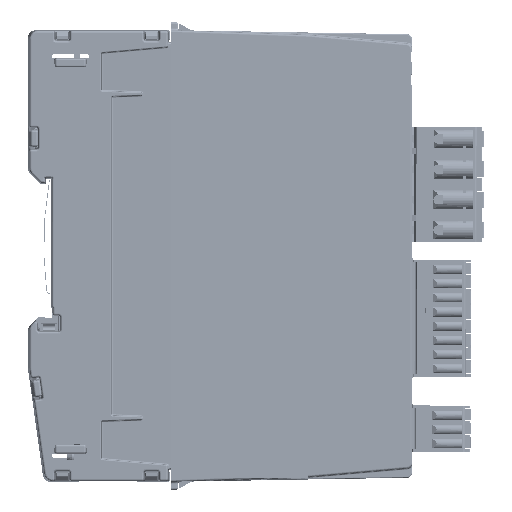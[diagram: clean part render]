
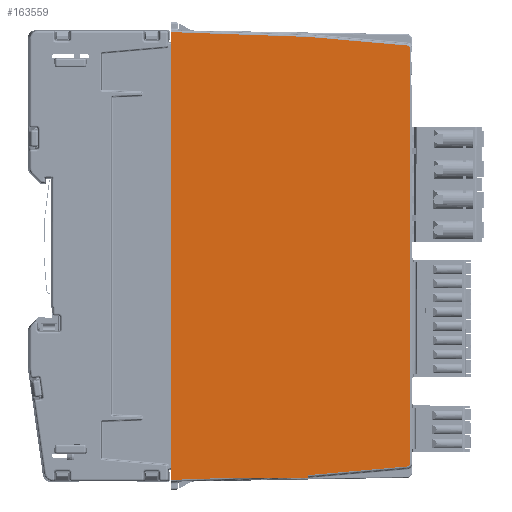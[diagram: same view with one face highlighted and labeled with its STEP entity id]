
A CAD part, left-side view. The second image highlights one B-rep face of the part: STEP entity #163559.
In plain terms, the highlighted planar face has unit normal (-1, -0.018, 0).
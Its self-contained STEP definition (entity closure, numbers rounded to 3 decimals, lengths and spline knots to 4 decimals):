
#15660=FACE_OUTER_BOUND('',#24726,.T.);
#24726=EDGE_LOOP('',(#137922,#137923,#137924,#137925,#137926,#137927,#137928,
#137929,#137930,#137931,#137932,#137933,#137934));
#40725=LINE('',#278950,#57212);
#40738=LINE('',#279022,#57225);
#40795=LINE('',#279250,#57282);
#41105=LINE('',#280697,#57592);
#41106=LINE('',#280699,#57593);
#41107=LINE('',#280703,#57594);
#41108=LINE('',#280707,#57595);
#41109=LINE('',#280709,#57596);
#41110=LINE('',#280711,#57597);
#41111=LINE('',#280713,#57598);
#41112=LINE('',#280714,#57599);
#57212=VECTOR('',#215309,0.3937);
#57225=VECTOR('',#215350,0.3937);
#57282=VECTOR('',#215545,39.3701);
#57592=VECTOR('',#216247,39.3701);
#57593=VECTOR('',#216248,39.3701);
#57594=VECTOR('',#216251,39.3701);
#57595=VECTOR('',#216254,39.3701);
#57596=VECTOR('',#216255,39.3701);
#57597=VECTOR('',#216256,39.3701);
#57598=VECTOR('',#216257,39.3701);
#57599=VECTOR('',#216258,39.3701);
#59947=ELLIPSE('',#176107,0.0315,0.0315);
#59948=ELLIPSE('',#176108,0.0315,0.0315);
#73093=VERTEX_POINT('',#278946);
#73095=VERTEX_POINT('',#278949);
#73117=VERTEX_POINT('',#279017);
#73175=VERTEX_POINT('',#279249);
#73504=VERTEX_POINT('',#280696);
#73505=VERTEX_POINT('',#280698);
#73506=VERTEX_POINT('',#280700);
#73507=VERTEX_POINT('',#280702);
#73508=VERTEX_POINT('',#280704);
#73509=VERTEX_POINT('',#280706);
#73510=VERTEX_POINT('',#280708);
#73511=VERTEX_POINT('',#280710);
#73512=VERTEX_POINT('',#280712);
#94589=EDGE_CURVE('',#73093,#73095,#40725,.T.);
#94616=EDGE_CURVE('',#73095,#73117,#40738,.T.);
#94709=EDGE_CURVE('',#73175,#73117,#40795,.T.);
#95179=EDGE_CURVE('',#73093,#73504,#41105,.T.);
#95180=EDGE_CURVE('',#73504,#73505,#41106,.T.);
#95181=EDGE_CURVE('',#73505,#73506,#59947,.T.);
#95182=EDGE_CURVE('',#73506,#73507,#41107,.T.);
#95183=EDGE_CURVE('',#73507,#73508,#59948,.T.);
#95184=EDGE_CURVE('',#73508,#73509,#41108,.T.);
#95185=EDGE_CURVE('',#73509,#73510,#41109,.T.);
#95186=EDGE_CURVE('',#73510,#73511,#41110,.T.);
#95187=EDGE_CURVE('',#73512,#73511,#41111,.T.);
#95188=EDGE_CURVE('',#73512,#73175,#41112,.T.);
#137922=ORIENTED_EDGE('',*,*,#95179,.T.);
#137923=ORIENTED_EDGE('',*,*,#95180,.T.);
#137924=ORIENTED_EDGE('',*,*,#95181,.T.);
#137925=ORIENTED_EDGE('',*,*,#95182,.T.);
#137926=ORIENTED_EDGE('',*,*,#95183,.T.);
#137927=ORIENTED_EDGE('',*,*,#95184,.T.);
#137928=ORIENTED_EDGE('',*,*,#95185,.T.);
#137929=ORIENTED_EDGE('',*,*,#95186,.T.);
#137930=ORIENTED_EDGE('',*,*,#95187,.F.);
#137931=ORIENTED_EDGE('',*,*,#95188,.T.);
#137932=ORIENTED_EDGE('',*,*,#94709,.T.);
#137933=ORIENTED_EDGE('',*,*,#94616,.F.);
#137934=ORIENTED_EDGE('',*,*,#94589,.F.);
#147144=PLANE('',#176106);
#163559=ADVANCED_FACE('',(#15660),#147144,.T.);
#176106=AXIS2_PLACEMENT_3D('',#280695,#216245,#216246);
#176107=AXIS2_PLACEMENT_3D('',#280701,#216249,#216250);
#176108=AXIS2_PLACEMENT_3D('',#280705,#216252,#216253);
#215309=DIRECTION('',(0.,0.,-1.));
#215350=DIRECTION('',(-0.017,1.,0.));
#215545=DIRECTION('',(0.017,-0.999,0.035));
#216245=DIRECTION('center_axis',(-1.,-0.017,
0.));
#216246=DIRECTION('ref_axis',(-0.017,1.,0.));
#216247=DIRECTION('',(0.017,-0.999,0.035));
#216248=DIRECTION('',(0.017,-0.996,0.087));
#216249=DIRECTION('center_axis',(-1.,-0.017,
0.));
#216250=DIRECTION('ref_axis',(0.017,-1.,0.));
#216251=DIRECTION('',(0.,0.,1.));
#216252=DIRECTION('center_axis',(-1.,-0.017,
0.));
#216253=DIRECTION('ref_axis',(0.017,-1.,0.));
#216254=DIRECTION('',(-0.017,0.996,0.087));
#216255=DIRECTION('',(-0.017,0.999,0.035));
#216256=DIRECTION('',(0.,0.,-1.));
#216257=DIRECTION('',(0.,0.,1.));
#216258=DIRECTION('',(0.,0.,-1.));
#278946=CARTESIAN_POINT('',(0.0005,-2.2096,-4.1958));
#278949=CARTESIAN_POINT('',(0.0005,-2.2096,-4.2206));
#278950=CARTESIAN_POINT('',(0.0005,-2.2096,-3.155));
#279017=CARTESIAN_POINT('',(-0.0119,-1.4997,-4.2206));
#279022=CARTESIAN_POINT('',(-0.0131,-1.4351,-4.2206));
#279249=CARTESIAN_POINT('',(-0.0227,-0.8827,-4.2421));
#279250=CARTESIAN_POINT('',(-0.0282,-0.5654,-4.2532));
#280695=CARTESIAN_POINT('Origin',(-0.0296,-0.489,
-2.0669));
#280696=CARTESIAN_POINT('',(0.0007,-2.2205,-4.1954));
#280697=CARTESIAN_POINT('',(-0.0282,-0.5654,-4.2532));
#280698=CARTESIAN_POINT('',(0.0174,-3.1772,-4.1117));
#280699=CARTESIAN_POINT('',(-0.0261,-0.6869,-4.3296));
#280700=CARTESIAN_POINT('',(0.0179,-3.2059,-4.0803));
#280701=CARTESIAN_POINT('Origin',(0.0173,-3.1744,
-4.0803));
#280702=CARTESIAN_POINT('',(0.0179,-3.2059,-0.0535));
#280703=CARTESIAN_POINT('',(0.0179,-3.2059,-0.0535));
#280704=CARTESIAN_POINT('',(0.0174,-3.1772,-0.0221));
#280705=CARTESIAN_POINT('Origin',(0.0173,-3.1744,
-0.0535));
#280706=CARTESIAN_POINT('',(0.0007,-2.2205,0.0616));
#280707=CARTESIAN_POINT('',(-0.0261,-0.6869,0.1957));
#280708=CARTESIAN_POINT('',(-0.0227,-0.8827,0.1083));
#280709=CARTESIAN_POINT('',(-0.0282,-0.5654,0.1194));
#280710=CARTESIAN_POINT('',(-0.0227,-0.8827,-0.0312));
#280711=CARTESIAN_POINT('',(-0.0227,-0.8827,0.128));
#280712=CARTESIAN_POINT('',(-0.0227,-0.8827,-4.1027));
#280713=CARTESIAN_POINT('',(-0.0227,-0.8827,-7.5932));
#280714=CARTESIAN_POINT('',(-0.0227,-0.8827,0.128));
